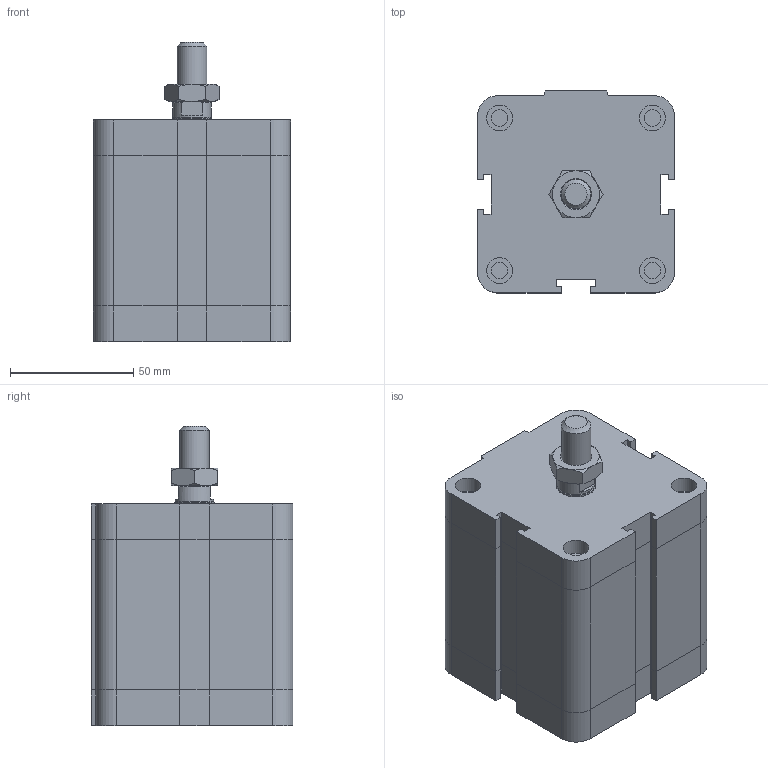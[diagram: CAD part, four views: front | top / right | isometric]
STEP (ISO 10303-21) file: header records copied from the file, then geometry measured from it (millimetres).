
FILE_DESCRIPTION((''),'2;1');
FILE_NAME('I:\Area Tecnica\Disegni\VARIE-3D\Componenti\EUROPE\15##_###_####_02_#\1581_63_0040_02_1.stp','2008-12-19T16:24:45',('rivolro1'),(''),'Autodesk Inventor 2009','Autodesk Inventor 2009','');
FILE_SCHEMA(('AUTOMOTIVE_DESIGN { 1 0 10303 214 1 1 1 1 }'));
Length unit declared in the file: millimetre
Products named in the file (4): 1581_63_0040_02_1; 1581_63_0040_01_1_C; 1561_63_0040_02_1_S; DBFM12
Assembly tree (3 placements, depth 2):
  1581_63_0040_02_1
    1581_63_0040_01_1_C
    1561_63_0040_02_1_S
    DBFM12
Bounding box: 80 x 82 x 121.5 mm (x, y, z)
Volume: 550552 mm3; surface area: 58414.9 mm2
Topology: 3 solids, 3 shells, 187 faces, 401 edges, 240 vertices
Faces by surface type: plane 121, bspline 24, cylinder 24, cone 18
Full cylindrical faces by diameter (mm): 6.647 x4, 10.5 x4, 10.8 x1, 12 x1, 15.6 x1, 16 x1
Entity records: 5080 total; most frequent: CARTESIAN_POINT 1096, DIRECTION 758, ORIENTED_EDGE 724, EDGE_CURVE 362, AXIS2_PLACEMENT_3D 254, VECTOR 250, LINE 250, EDGE_LOOP 238
